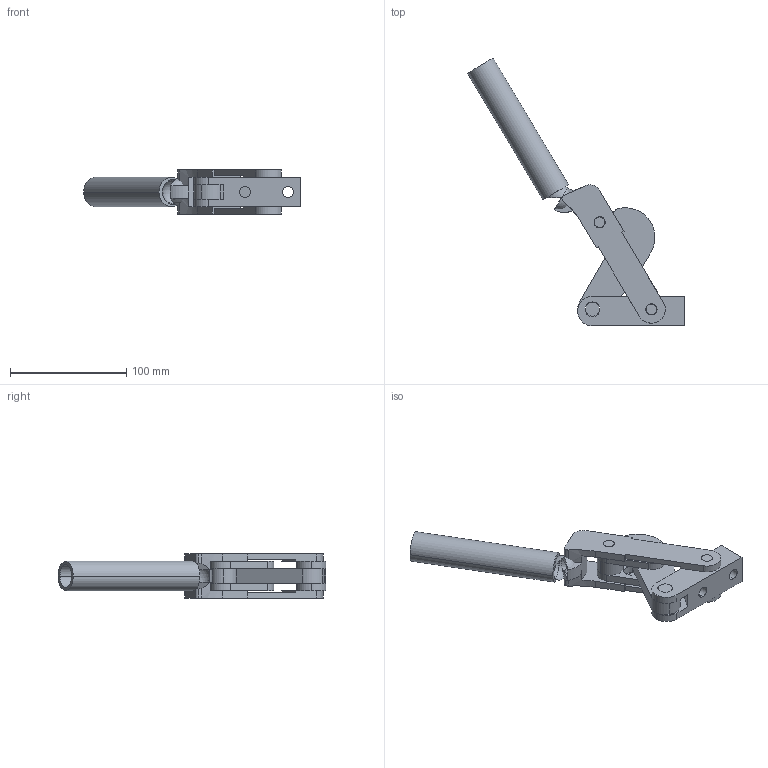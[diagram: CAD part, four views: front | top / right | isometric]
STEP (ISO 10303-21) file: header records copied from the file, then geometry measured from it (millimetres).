
FILE_DESCRIPTION( ( '' ), '1' );
FILE_NAME( 'C:\Documents and Settings\Richard Grenzke\My Documents\Wolverine Company Data\WOLVERINE CD 5_17_05\SOLIDS STEP\heavy_duty_compact\lyt990.stp', ' ', ( '' ), ( '' ), 'ACIS Interop R16', 'Kubotek KeyCreator V5.5.1 (0454)', ' ' );
FILE_SCHEMA( ( 'CONFIG_CONTROL_DESIGN' ) );
Length unit declared in the file: inch
Products named in the file (10): 1; 2; 3; 4; 5; 6; 7; 8; 9; 10
Bounding box: 186.94 x 230.92 x 38.1 mm (x, y, z)
Volume: 164930.6 mm3; surface area: 74351.6 mm2
Topology: 9 solids, 9 shells, 148 faces, 404 edges, 272 vertices
Faces by surface type: cylinder 79, plane 63, cone 4, sphere 2
Entity records: 5299 total; most frequent: DIRECTION 916, CARTESIAN_POINT 844, ORIENTED_EDGE 800, EDGE_CURVE 400, AXIS2_PLACEMENT_3D 360, VERTEX_POINT 272, CIRCLE 201, LINE 196
